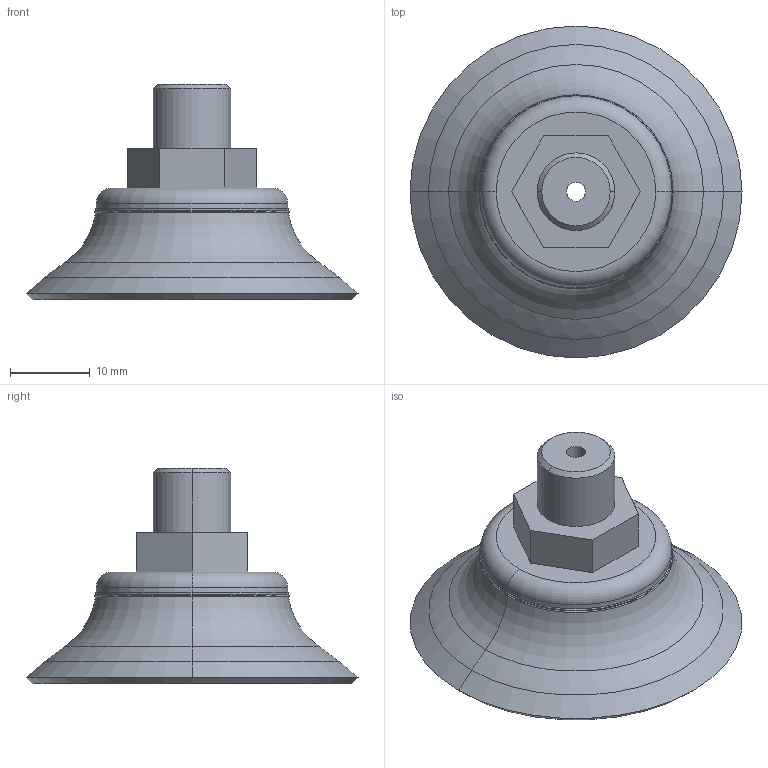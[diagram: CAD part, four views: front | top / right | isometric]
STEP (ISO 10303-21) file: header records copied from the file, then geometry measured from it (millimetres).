
FILE_DESCRIPTION (( 'STEP AP203' ), '1' );
FILE_NAME ('PFYN 40 NBR-55 G1_8-AG.STEP', '2024-05-15T01:07:51', ( '微软用户' ), ( '微软中国' ), 'SwSTEP 2.0', 'SolidWorks 2018', '' );
FILE_SCHEMA (( 'CONFIG_CONTROL_DESIGN' ));
Length unit declared in the file: metre
Products named in the file (1): PFYN 40 NBR-55 G1_8-AG
Bounding box: 41.6 x 41.6 x 27 mm (x, y, z)
Volume: 7909.9 mm3; surface area: 4261.3 mm2
Topology: 1 solids, 1 shells, 45 faces, 100 edges, 60 vertices
Faces by surface type: torus 16, plane 11, cone 10, cylinder 8
Entity records: 1339 total; most frequent: DIRECTION 256, CARTESIAN_POINT 206, ORIENTED_EDGE 200, AXIS2_PLACEMENT_3D 110, EDGE_CURVE 100, CIRCLE 64, VERTEX_POINT 60, EDGE_LOOP 50
